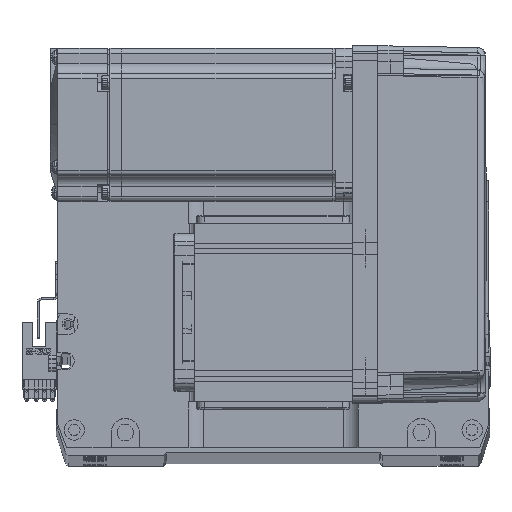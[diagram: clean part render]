
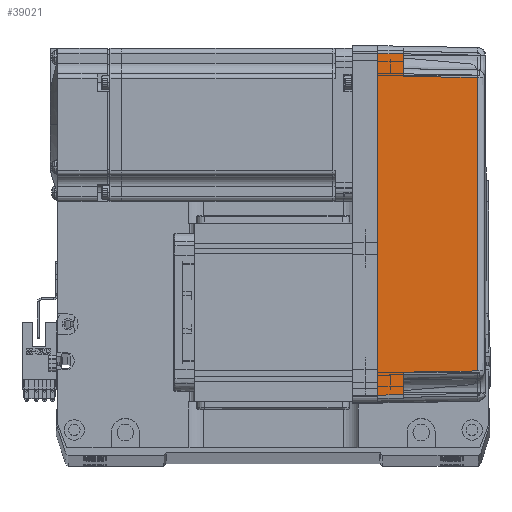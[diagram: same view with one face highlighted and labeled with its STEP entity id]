
A CAD part, top view. The second image highlights one B-rep face of the part: STEP entity #39021.
In plain terms, the highlighted planar face has unit normal (0.018, 0, 1) as drawn and (0, -1, 0.017) by its records, which use the part's own axes.
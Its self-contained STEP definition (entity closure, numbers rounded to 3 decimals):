
#1035 = DIRECTION ( 'NONE',  ( -1., 0., 0. ) ) ;
#1051 = VERTEX_POINT ( 'NONE', #27442 ) ;
#1857 = ORIENTED_EDGE ( 'NONE', *, *, #5568, .T. ) ;
#2123 = EDGE_CURVE ( 'NONE', #59652, #8855, #62313, .T. ) ;
#4707 = ORIENTED_EDGE ( 'NONE', *, *, #2123, .T. ) ;
#4898 = DIRECTION ( 'NONE',  ( -1., 0., 0. ) ) ;
#5130 = ORIENTED_EDGE ( 'NONE', *, *, #40245, .T. ) ;
#5495 = LINE ( 'NONE', #19098, #57651 ) ;
#5568 = EDGE_CURVE ( 'NONE', #21737, #67900, #5808, .T. ) ;
#5750 = CARTESIAN_POINT ( 'NONE',  ( 58., -35.825, 10. ) ) ;
#5793 = LINE ( 'NONE', #25422, #43925 ) ;
#5808 = LINE ( 'NONE', #45586, #66164 ) ;
#6248 = VERTEX_POINT ( 'NONE', #20210 ) ;
#6462 = ORIENTED_EDGE ( 'NONE', *, *, #41299, .F. ) ;
#8854 = LINE ( 'NONE', #53392, #67548 ) ;
#8855 = VERTEX_POINT ( 'NONE', #57086 ) ;
#9848 = CARTESIAN_POINT ( 'NONE',  ( -19.165, -35.316, 39.181 ) ) ;
#13274 = CARTESIAN_POINT ( 'NONE',  ( 0., -36., 0. ) ) ;
#13774 = CARTESIAN_POINT ( 'NONE',  ( -67., -36., 0. ) ) ;
#13841 = CARTESIAN_POINT ( 'NONE',  ( -57.495, -35.32, 38.985 ) ) ;
#16432 = DIRECTION ( 'NONE',  ( -0.017, 0.017, 1. ) ) ;
#16780 = EDGE_CURVE ( 'NONE', #6248, #1051, #8854, .T. ) ;
#19098 = CARTESIAN_POINT ( 'NONE',  ( -57.495, -35.32, 38.985 ) ) ;
#20210 = CARTESIAN_POINT ( 'NONE',  ( -58., -35.825, 10. ) ) ;
#20699 = CARTESIAN_POINT ( 'NONE',  ( 70., -36., 0. ) ) ;
#21264 = VECTOR ( 'NONE', #4898, 1000. ) ;
#21737 = VERTEX_POINT ( 'NONE', #60800 ) ;
#23885 = ORIENTED_EDGE ( 'NONE', *, *, #51860, .F. ) ;
#25422 = CARTESIAN_POINT ( 'NONE',  ( -66.959, -35.958, 2.39 ) ) ;
#27428 = CARTESIAN_POINT ( 'NONE',  ( 66.826, -35.825, 10. ) ) ;
#27442 = CARTESIAN_POINT ( 'NONE',  ( -66.826, -35.825, 10. ) ) ;
#28983 = EDGE_CURVE ( 'NONE', #8855, #51783, #45831, .T. ) ;
#31303 = DIRECTION ( 'NONE',  ( 0., -0.017, -1. ) ) ;
#31552 = CARTESIAN_POINT ( 'NONE',  ( 57.495, -35.32, 38.985 ) ) ;
#33739 = CARTESIAN_POINT ( 'NONE',  ( 58., -35.825, 10. ) ) ;
#35309 = LINE ( 'NONE', #67528, #21264 ) ;
#36231 = CARTESIAN_POINT ( 'NONE',  ( -57.495, -35.32, 38.985 ) ) ;
#37630 = LINE ( 'NONE', #13274, #64083 ) ;
#38416 = AXIS2_PLACEMENT_3D ( 'NONE', #20699, #63005, #31303 ) ;
#39021 = ADVANCED_FACE ( 'NONE', ( #61138 ), #47048, .T. ) ;
#40245 = EDGE_CURVE ( 'NONE', #51783, #6248, #5495, .T. ) ;
#40283 = EDGE_CURVE ( 'NONE', #67900, #59652, #35309, .T. ) ;
#40545 = ORIENTED_EDGE ( 'NONE', *, *, #16780, .T. ) ;
#41299 = EDGE_CURVE ( 'NONE', #21737, #58729, #37630, .T. ) ;
#43925 = VECTOR ( 'NONE', #46011, 1000. ) ;
#44489 = ORIENTED_EDGE ( 'NONE', *, *, #40283, .T. ) ;
#45586 = CARTESIAN_POINT ( 'NONE',  ( 67., -36., 0. ) ) ;
#45831 = B_SPLINE_CURVE_WITH_KNOTS ( 'NONE', 3,
 ( #31552, #47772, #9848, #36231 ),
 .UNSPECIFIED., .F., .F.,
 ( 4, 4 ),
 ( 0., 1. ),
 .UNSPECIFIED. ) ;
#46011 = DIRECTION ( 'NONE',  ( 0.017, 0.017, 1. ) ) ;
#47048 = PLANE ( 'NONE',  #38416 ) ;
#47772 = CARTESIAN_POINT ( 'NONE',  ( 19.165, -35.316, 39.181 ) ) ;
#50924 = DIRECTION ( 'NONE',  ( -0.017, 0.017, 1. ) ) ;
#51783 = VERTEX_POINT ( 'NONE', #13841 ) ;
#51860 = EDGE_CURVE ( 'NONE', #58729, #1051, #5793, .T. ) ;
#52783 = ORIENTED_EDGE ( 'NONE', *, *, #28983, .T. ) ;
#53392 = CARTESIAN_POINT ( 'NONE',  ( 70., -35.825, 10. ) ) ;
#57086 = CARTESIAN_POINT ( 'NONE',  ( 57.495, -35.32, 38.985 ) ) ;
#57279 = EDGE_LOOP ( 'NONE', ( #1857, #44489, #4707, #52783, #5130, #40545, #23885, #6462 ) ) ;
#57651 = VECTOR ( 'NONE', #67098, 1000. ) ;
#58729 = VERTEX_POINT ( 'NONE', #13774 ) ;
#59652 = VERTEX_POINT ( 'NONE', #33739 ) ;
#60800 = CARTESIAN_POINT ( 'NONE',  ( 67., -36., 0. ) ) ;
#61138 = FACE_OUTER_BOUND ( 'NONE', #57279, .T. ) ;
#62313 = LINE ( 'NONE', #5750, #64647 ) ;
#63005 = DIRECTION ( 'NONE',  ( 0., -1., 0.017 ) ) ;
#64083 = VECTOR ( 'NONE', #66437, 1000. ) ;
#64647 = VECTOR ( 'NONE', #16432, 1000. ) ;
#66164 = VECTOR ( 'NONE', #50924, 1000. ) ;
#66437 = DIRECTION ( 'NONE',  ( -1., 0., 0. ) ) ;
#67098 = DIRECTION ( 'NONE',  ( -0.017, -0.017, -1. ) ) ;
#67528 = CARTESIAN_POINT ( 'NONE',  ( 70., -35.825, 10. ) ) ;
#67548 = VECTOR ( 'NONE', #1035, 1000. ) ;
#67900 = VERTEX_POINT ( 'NONE', #27428 ) ;
